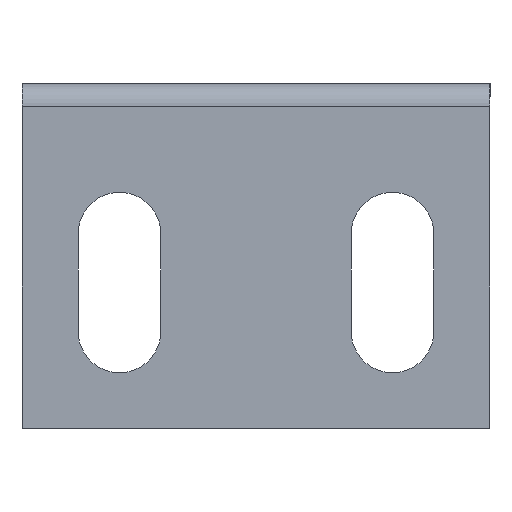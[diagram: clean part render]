
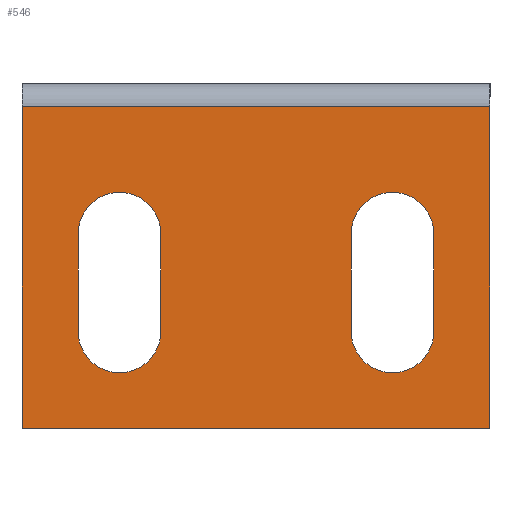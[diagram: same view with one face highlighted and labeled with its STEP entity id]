
A CAD part, left-side view. The second image highlights one B-rep face of the part: STEP entity #546.
In plain terms, the highlighted planar face has unit normal (-1, 0, 0).
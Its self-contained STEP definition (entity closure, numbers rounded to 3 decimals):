
#23=FACE_BOUND('',#103,.T.);
#24=FACE_BOUND('',#104,.T.);
#40=PLANE('',#607);
#67=FACE_OUTER_BOUND('',#102,.T.);
#102=EDGE_LOOP('',(#491,#492,#493,#494));
#103=EDGE_LOOP('',(#495,#496,#497,#498));
#104=EDGE_LOOP('',(#499,#500,#501,#502));
#128=LINE('',#827,#183);
#137=LINE('',#847,#192);
#141=LINE('',#859,#196);
#145=LINE('',#871,#200);
#149=LINE('',#883,#204);
#151=LINE('',#890,#206);
#159=LINE('',#909,#214);
#160=LINE('',#911,#215);
#183=VECTOR('',#671,10.);
#192=VECTOR('',#686,10.);
#196=VECTOR('',#698,10.);
#200=VECTOR('',#710,10.);
#204=VECTOR('',#722,10.);
#206=VECTOR('',#732,10.);
#214=VECTOR('',#754,10.);
#215=VECTOR('',#757,10.);
#227=CIRCLE('',#586,4.25);
#229=CIRCLE('',#590,4.25);
#231=CIRCLE('',#594,4.25);
#233=CIRCLE('',#598,4.25);
#259=VERTEX_POINT('',#824);
#260=VERTEX_POINT('',#826);
#267=VERTEX_POINT('',#844);
#268=VERTEX_POINT('',#846);
#270=VERTEX_POINT('',#852);
#272=VERTEX_POINT('',#858);
#275=VERTEX_POINT('',#868);
#276=VERTEX_POINT('',#870);
#278=VERTEX_POINT('',#876);
#280=VERTEX_POINT('',#882);
#281=VERTEX_POINT('',#889);
#285=VERTEX_POINT('',#907);
#317=EDGE_CURVE('',#260,#259,#128,.T.);
#327=EDGE_CURVE('',#268,#267,#137,.T.);
#330=EDGE_CURVE('',#270,#268,#227,.T.);
#333=EDGE_CURVE('',#272,#270,#141,.T.);
#336=EDGE_CURVE('',#267,#272,#229,.T.);
#339=EDGE_CURVE('',#276,#275,#145,.T.);
#342=EDGE_CURVE('',#278,#276,#231,.T.);
#345=EDGE_CURVE('',#280,#278,#149,.T.);
#348=EDGE_CURVE('',#275,#280,#233,.T.);
#349=EDGE_CURVE('',#260,#281,#151,.T.);
#359=EDGE_CURVE('',#259,#285,#159,.T.);
#360=EDGE_CURVE('',#281,#285,#160,.T.);
#491=ORIENTED_EDGE('',*,*,#317,.T.);
#492=ORIENTED_EDGE('',*,*,#359,.T.);
#493=ORIENTED_EDGE('',*,*,#360,.F.);
#494=ORIENTED_EDGE('',*,*,#349,.F.);
#495=ORIENTED_EDGE('',*,*,#333,.T.);
#496=ORIENTED_EDGE('',*,*,#330,.T.);
#497=ORIENTED_EDGE('',*,*,#327,.T.);
#498=ORIENTED_EDGE('',*,*,#336,.T.);
#499=ORIENTED_EDGE('',*,*,#345,.T.);
#500=ORIENTED_EDGE('',*,*,#342,.T.);
#501=ORIENTED_EDGE('',*,*,#339,.T.);
#502=ORIENTED_EDGE('',*,*,#348,.T.);
#546=ADVANCED_FACE('',(#67,#23,#24),#40,.T.);
#586=AXIS2_PLACEMENT_3D('',#853,#692,#693);
#590=AXIS2_PLACEMENT_3D('',#863,#704,#705);
#594=AXIS2_PLACEMENT_3D('',#877,#716,#717);
#598=AXIS2_PLACEMENT_3D('',#887,#728,#729);
#607=AXIS2_PLACEMENT_3D('',#910,#755,#756);
#671=DIRECTION('',(0.,0.,1.));
#686=DIRECTION('',(0.,0.,1.));
#692=DIRECTION('center_axis',(1.,0.,0.));
#693=DIRECTION('ref_axis',(0.,1.,0.));
#698=DIRECTION('',(0.,0.,-1.));
#704=DIRECTION('center_axis',(1.,0.,0.));
#705=DIRECTION('ref_axis',(0.,-1.,0.));
#710=DIRECTION('',(0.,0.,1.));
#716=DIRECTION('center_axis',(1.,0.,0.));
#717=DIRECTION('ref_axis',(0.,1.,0.));
#722=DIRECTION('',(0.,0.,-1.));
#728=DIRECTION('center_axis',(1.,0.,0.));
#729=DIRECTION('ref_axis',(0.,-1.,0.));
#732=DIRECTION('',(0.,1.,0.));
#754=DIRECTION('',(0.,1.,0.));
#755=DIRECTION('center_axis',(-1.,0.,0.));
#756=DIRECTION('ref_axis',(0.,0.,1.));
#757=DIRECTION('',(0.,0.,1.));
#824=CARTESIAN_POINT('',(-1.35,0.,-1.));
#826=CARTESIAN_POINT('',(-1.35,0.,-34.));
#827=CARTESIAN_POINT('',(-1.35,0.,-34.));
#844=CARTESIAN_POINT('',(-1.35,14.25,-14.05));
#846=CARTESIAN_POINT('',(-1.35,14.25,-24.05));
#847=CARTESIAN_POINT('',(-1.35,14.25,-29.025));
#852=CARTESIAN_POINT('',(-1.35,5.75,-24.05));
#853=CARTESIAN_POINT('Origin',(-1.35,10.,-24.05));
#858=CARTESIAN_POINT('',(-1.35,5.75,-14.05));
#859=CARTESIAN_POINT('',(-1.35,5.75,-24.025));
#863=CARTESIAN_POINT('Origin',(-1.35,10.,-14.05));
#868=CARTESIAN_POINT('',(-1.35,42.25,-14.05));
#870=CARTESIAN_POINT('',(-1.35,42.25,-24.05));
#871=CARTESIAN_POINT('',(-1.35,42.25,-29.025));
#876=CARTESIAN_POINT('',(-1.35,33.75,-24.05));
#877=CARTESIAN_POINT('Origin',(-1.35,38.,-24.05));
#882=CARTESIAN_POINT('',(-1.35,33.75,-14.05));
#883=CARTESIAN_POINT('',(-1.35,33.75,-24.025));
#887=CARTESIAN_POINT('Origin',(-1.35,38.,-14.05));
#889=CARTESIAN_POINT('',(-1.35,48.,-34.));
#890=CARTESIAN_POINT('',(-1.35,0.,-34.));
#907=CARTESIAN_POINT('',(-1.35,48.,-1.));
#909=CARTESIAN_POINT('',(-1.35,0.,-1.));
#910=CARTESIAN_POINT('Origin',(-1.35,0.,-34.));
#911=CARTESIAN_POINT('',(-1.35,48.,-34.));
